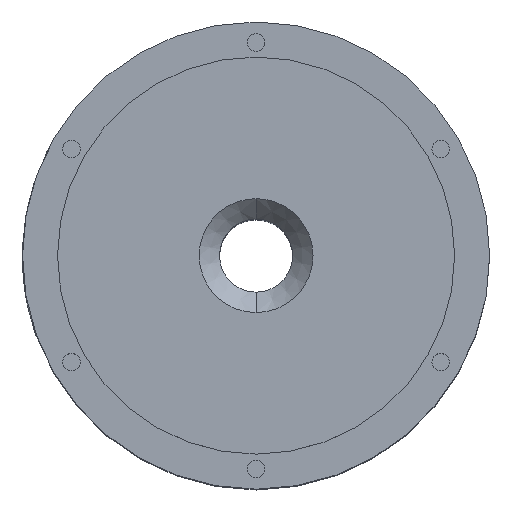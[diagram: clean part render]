
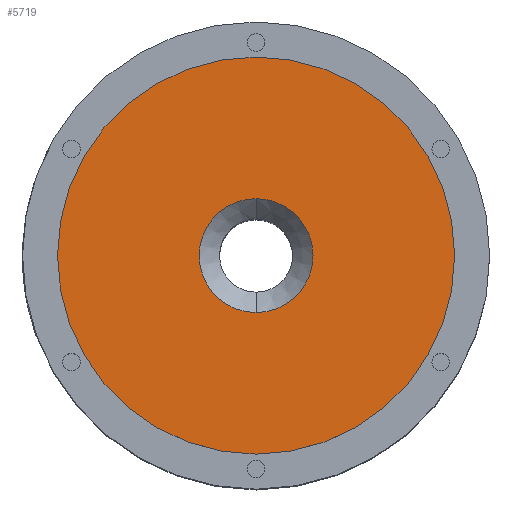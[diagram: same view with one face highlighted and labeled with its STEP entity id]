
A CAD part, top view. The second image highlights one B-rep face of the part: STEP entity #5719.
In plain terms, the highlighted planar face has unit normal (0, 0, 1).
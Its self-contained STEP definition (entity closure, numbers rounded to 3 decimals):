
#1358 = VERTEX_POINT ( 'NONE', #4001 ) ;
#1360 = EDGE_CURVE ( 'NONE', #1358, #1361, #3285, .T. ) ;
#1361 = VERTEX_POINT ( 'NONE', #3759 ) ;
#3285 = CIRCLE ( 'NONE', #3487, 19.5 ) ;
#3486 = DIRECTION ( 'NONE',  ( 0., -1., 0. ) ) ;
#3487 = AXIS2_PLACEMENT_3D ( 'NONE', #3497, #3528, #3486 ) ;
#3497 = CARTESIAN_POINT ( 'NONE',  ( 0., 0., 168. ) ) ;
#3528 = DIRECTION ( 'NONE',  ( 0., 0., -1. ) ) ;
#3759 = CARTESIAN_POINT ( 'NONE',  ( 0., 19.5, 168. ) ) ;
#4001 = CARTESIAN_POINT ( 'NONE',  ( 0., -19.5, 168. ) ) ;
#4539 = DIRECTION ( 'NONE',  ( 0., -1., 0. ) ) ;
#4540 = CARTESIAN_POINT ( 'NONE',  ( 0., 0., 168. ) ) ;
#4543 = DIRECTION ( 'NONE',  ( 0., -1., 0. ) ) ;
#4544 = DIRECTION ( 'NONE',  ( 0., 0., -1. ) ) ;
#4545 = CARTESIAN_POINT ( 'NONE',  ( 0., 0., 168. ) ) ;
#4546 = AXIS2_PLACEMENT_3D ( 'NONE', #4545, #4544, #4543 ) ;
#4547 = FACE_BOUND ( 'NONE', #5718, .T. ) ;
#4548 = AXIS2_PLACEMENT_3D ( 'NONE', #4558, #4560, #4539 ) ;
#4549 = DIRECTION ( 'NONE',  ( 0., 0., -1. ) ) ;
#4553 = CIRCLE ( 'NONE', #4546, 19.5 ) ;
#4558 = CARTESIAN_POINT ( 'NONE',  ( 0., -12.5, 168. ) ) ;
#4559 = FACE_OUTER_BOUND ( 'NONE', #5717, .T. ) ;
#4560 = DIRECTION ( 'NONE',  ( 0., 0., 1. ) ) ;
#4563 = CIRCLE ( 'NONE', #4598, 68. ) ;
#4567 = PLANE ( 'NONE',  #4548 ) ;
#4597 = DIRECTION ( 'NONE',  ( 0., 1., 0. ) ) ;
#4598 = AXIS2_PLACEMENT_3D ( 'NONE', #4540, #4549, #4597 ) ;
#4811 = CARTESIAN_POINT ( 'NONE',  ( 0., 68., 168. ) ) ;
#4887 = CIRCLE ( 'NONE', #4940, 68. ) ;
#4922 = CARTESIAN_POINT ( 'NONE',  ( 0., -68., 168. ) ) ;
#4931 = DIRECTION ( 'NONE',  ( 0., 1., 0. ) ) ;
#4932 = DIRECTION ( 'NONE',  ( 0., 0., -1. ) ) ;
#4933 = CARTESIAN_POINT ( 'NONE',  ( 0., 0., 168. ) ) ;
#4940 = AXIS2_PLACEMENT_3D ( 'NONE', #4933, #4932, #4931 ) ;
#5712 = ORIENTED_EDGE ( 'NONE', *, *, #5722, .F. ) ;
#5713 = ORIENTED_EDGE ( 'NONE', *, *, #1360, .T. ) ;
#5714 = EDGE_CURVE ( 'NONE', #1361, #1358, #4553, .T. ) ;
#5715 = ORIENTED_EDGE ( 'NONE', *, *, #5901, .F. ) ;
#5716 = ORIENTED_EDGE ( 'NONE', *, *, #5714, .T. ) ;
#5717 = EDGE_LOOP ( 'NONE', ( #5715, #5712 ) ) ;
#5718 = EDGE_LOOP ( 'NONE', ( #5713, #5716 ) ) ;
#5719 = ADVANCED_FACE ( 'NONE', ( #4547, #4559 ), #4567, .T. ) ;
#5722 = EDGE_CURVE ( 'NONE', #5908, #5841, #4563, .T. ) ;
#5841 = VERTEX_POINT ( 'NONE', #4811 ) ;
#5901 = EDGE_CURVE ( 'NONE', #5841, #5908, #4887, .T. ) ;
#5908 = VERTEX_POINT ( 'NONE', #4922 ) ;
